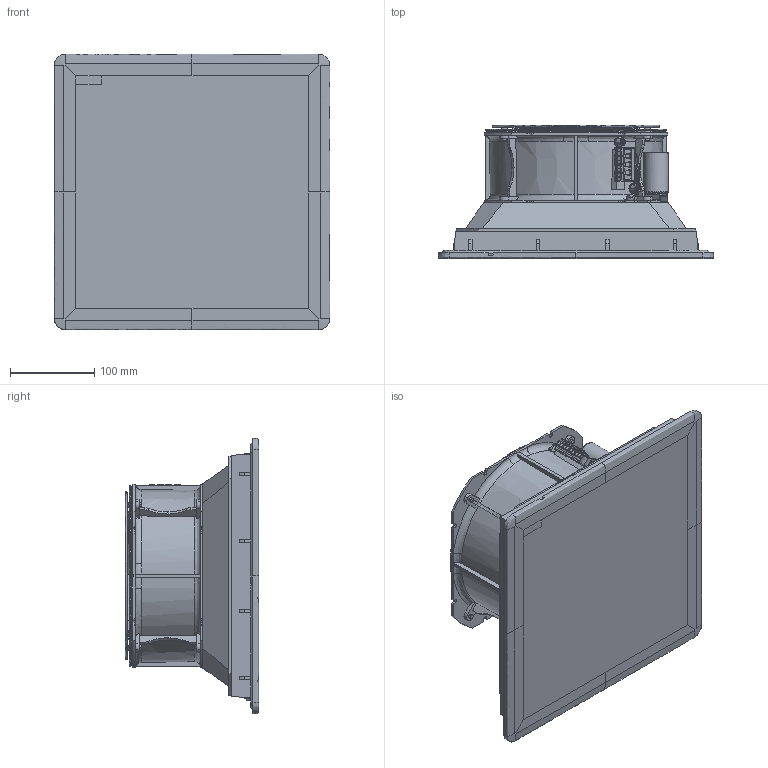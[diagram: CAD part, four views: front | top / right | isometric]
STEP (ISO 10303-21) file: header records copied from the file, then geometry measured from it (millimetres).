
FILE_DESCRIPTION(/* description */ (''),/* implementation_level */ '2;1');
FILE_NAME(/* name */ 'FPCDA5~1',/* time_stamp */ '2019-06-28T10:11:32+02:00',/* author */ (''),/* organization */ (''),/* preprocessor_version */ 'ST-DEVELOPER v14',/* originating_system */ '',/* authorisation */ '');
FILE_SCHEMA (('CONFIG_CONTROL_DESIGN'));
Length unit declared in the file: millimetre
Products named in the file (1): Document
Bounding box: 327 x 158.67 x 327 mm (x, y, z)
Volume: 36085.7 mm3; surface area: 403557.3 mm2
Topology: 5 solids, 12 shells, 1373 faces, 4441 edges, 2966 vertices
Faces by surface type: plane 691, bspline 682
Entity records: 93610 total; most frequent: CARTESIAN_POINT 68372, ORIENTED_EDGE 8556, EDGE_CURVE 4439, VERTEX_POINT 2966, B_SPLINE_CURVE_WITH_KNOTS 2643, EDGE_LOOP 1529, ADVANCED_FACE 1373, FACE_OUTER_BOUND 1373
